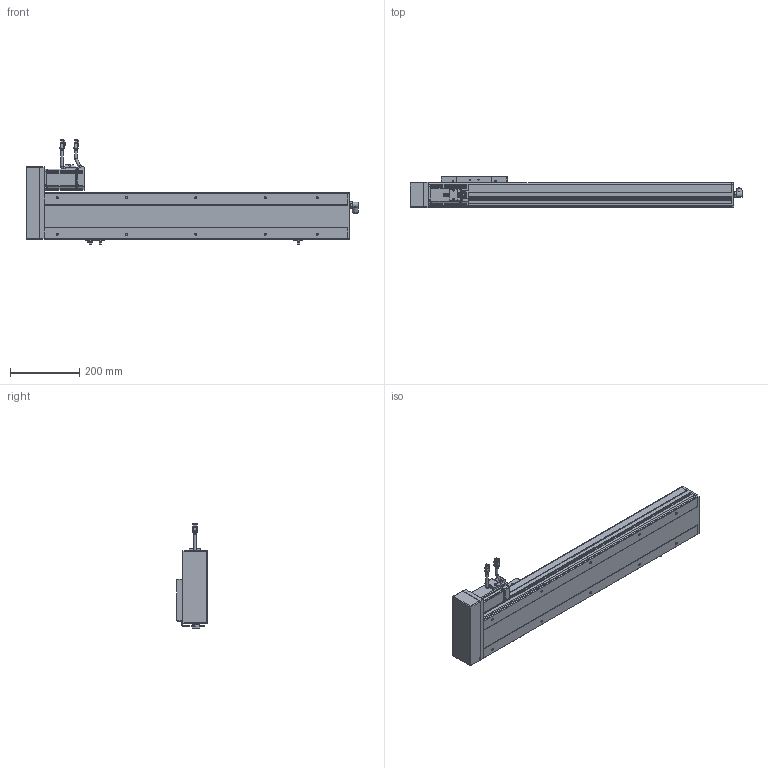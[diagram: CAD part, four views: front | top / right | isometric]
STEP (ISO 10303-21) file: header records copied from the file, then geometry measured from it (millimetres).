
FILE_DESCRIPTION(/* description */ ('STEP AP214'),/* implementation_level */ '2;1');
FILE_NAME(/* name */ 'PSC140-L05-S600-BL-P40-C1-N(0)',/* time_stamp */ '2022-06-13T03:27:16+02:00',/* author */ ('License CC BY-ND 4.0'),/* organization */ ('CADENAS'),/* preprocessor_version */ 'ST-DEVELOPER v18.102',/* originating_system */ 'PARTsolutions',/* authorisation */ ' ');
FILE_SCHEMA (('AUTOMOTIVE_DESIGN {1 0 10303 214 3 1 1}'));
Length unit declared in the file: millimetre
Products named in the file (11): PSC140-L05-S600-BL-P40-C1-N(0); P40-s2; P40-c2; P40-s1; P40-c1; P40-p1; PSC140-BL-body2; PSC140-sensor; PSC140-BL-SLIDER; PSC140-S600-BL-P40-C1_BODY1; PSC140-L05-S600-BL-P40-C1-N(0)_dummy
Assembly tree (12 placements, depth 2):
  PSC140-L05-S600-BL-P40-C1-N(0)
    P40-s2
    P40-c2
    P40-s1
    P40-c1
    P40-p1
    PSC140-BL-body2
    PSC140-sensor  x3
    PSC140-BL-SLIDER
    PSC140-S600-BL-P40-C1_BODY1
    PSC140-L05-S600-BL-P40-C1-N(0)_dummy
Bounding box: 958 x 91 x 300.88 mm (x, y, z)
Volume: 9923003.6 mm3; surface area: 605400.8 mm2
Topology: 12 solids, 12 shells, 1226 faces, 3171 edges, 2098 vertices
Faces by surface type: plane 856, cylinder 313, cone 38, torus 19
Full cylindrical faces by diameter (mm): 1 x8, 2.6 x10, 2.8 x3, 3.3 x8, 4.5 x12, 4.6 x3, 4.917 x14, 5 x4, 5.5 x8, 6 x10, 7 x10, 9 x2, 10 x1, 11 x1, 12 x1, 13.74 x1, 14 x1, 16.4 x2, 16.5 x1, 36 x1, 50 x2
Entity records: 33966 total; most frequent: CARTESIAN_POINT 5935, DIRECTION 5707, ORIENTED_EDGE 5522, EDGE_CURVE 2761, LINE 2097, VECTOR 2097, VERTEX_POINT 1918, AXIS2_PLACEMENT_3D 1805
